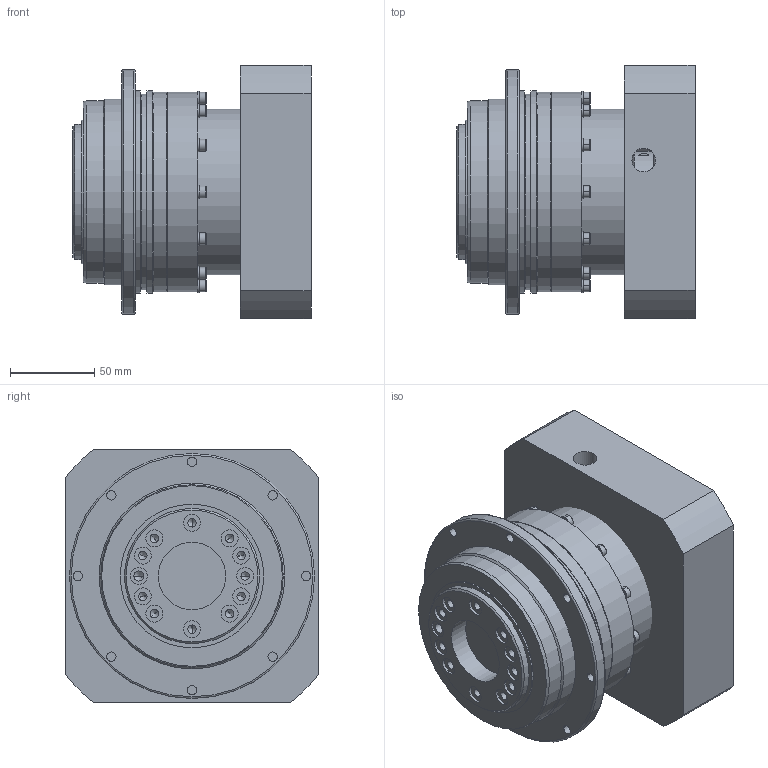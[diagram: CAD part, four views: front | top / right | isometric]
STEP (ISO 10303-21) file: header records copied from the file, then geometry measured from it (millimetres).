
FILE_DESCRIPTION(/* description */ (''),/* implementation_level */ '2;1');
FILE_NAME(/* name */ 'TD110-L1-24-130-165-M10-71-12.stp',/* time_stamp */ '2021-04-21T09:41:48+08:00',/* author */ (''),/* organization */ (''),/* preprocessor_version */ 'ST-DEVELOPER v16',/* originating_system */ 'SIEMENS PLM Software NX 10.0',/* authorisation */ '');
FILE_SCHEMA (('CONFIG_CONTROL_DESIGN'));
Length unit declared in the file: millimetre
Products named in the file (1): _model520
Bounding box: 141 x 150 x 150 mm (x, y, z)
Volume: 1618049.9 mm3; surface area: 196262.5 mm2
Topology: 28 solids, 28 shells, 685 faces, 1447 edges, 847 vertices
Faces by surface type: cylinder 270, plane 262, cone 124, torus 29
Full cylindrical faces by diameter (mm): 5 x9, 6 x1, 8.6 x4, 10 x10, 14 x1, 24 x1, 27.5 x1, 40 x1, 66 x1, 80 x1, 85 x1, 90 x1, 98 x1, 108 x1, 110 x1, 115.6 x1, 118 x2, 120 x2, 130 x1, 145 x1
Entity records: 18025 total; most frequent: CARTESIAN_POINT 3475, DIRECTION 3169, ORIENTED_EDGE 2680, EDGE_CURVE 1340, AXIS2_PLACEMENT_3D 1217, EDGE_LOOP 859, VERTEX_POINT 839, LINE 735
